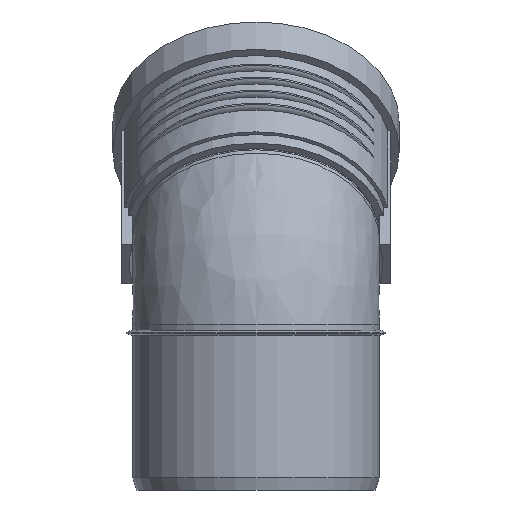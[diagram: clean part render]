
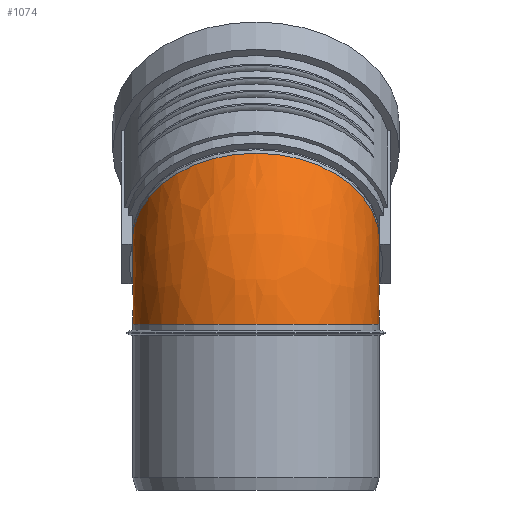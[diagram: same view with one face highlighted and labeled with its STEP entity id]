
A CAD part, left-side view. The second image highlights one B-rep face of the part: STEP entity #1074.
In plain terms, the highlighted free-form (B-spline) face has degree [2, 2] with [9, 9] control points.
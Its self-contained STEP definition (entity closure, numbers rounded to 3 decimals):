
#142=(
BOUNDED_SURFACE()
B_SPLINE_SURFACE(2,2,((#1588,#1589,#1590,#1591,#1592,#1593,#1594,#1595,
#1596),(#1597,#1598,#1599,#1600,#1601,#1602,#1603,#1604,#1605),(#1606,#1607,
#1608,#1609,#1610,#1611,#1612,#1613,#1614),(#1615,#1616,#1617,#1618,#1619,
#1620,#1621,#1622,#1623),(#1624,#1625,#1626,#1627,#1628,#1629,#1630,#1631,
#1632),(#1633,#1634,#1635,#1636,#1637,#1638,#1639,#1640,#1641),(#1642,#1643,
#1644,#1645,#1646,#1647,#1648,#1649,#1650),(#1651,#1652,#1653,#1654,#1655,
#1656,#1657,#1658,#1659),(#1660,#1661,#1662,#1663,#1664,#1665,#1666,#1667,
#1668)),.UNSPECIFIED.,.T.,.T.,.F.)
B_SPLINE_SURFACE_WITH_KNOTS((3,2,2,2,3),(3,2,2,2,3),(-3.142,
-1.571,0.,1.571,3.142),(-3.142,
-1.571,0.,1.571,3.142),.UNSPECIFIED.)
GEOMETRIC_REPRESENTATION_ITEM()
RATIONAL_B_SPLINE_SURFACE(((1.,0.707,1.,0.707,1.,
0.707,1.,0.707,1.),(0.707,0.5,0.707,
0.5,0.707,0.5,0.707,0.5,0.707),(1.,
0.707,1.,0.707,1.,0.707,1.,0.707,
1.),(0.707,0.5,0.707,0.5,0.707,0.5,
0.707,0.5,0.707),(1.,0.707,1.,0.707,
1.,0.707,1.,0.707,1.),(0.707,0.5,0.707,
0.5,0.707,0.5,0.707,0.5,0.707),(1.,
0.707,1.,0.707,1.,0.707,1.,0.707,
1.),(0.707,0.5,0.707,0.5,0.707,0.5,
0.707,0.5,0.707),(1.,0.707,1.,0.707,
1.,0.707,1.,0.707,1.)))
REPRESENTATION_ITEM($)
SURFACE()
);
#260=FACE_OUTER_BOUND($,#331,.T.);
#331=EDGE_LOOP($,(#734,#735));
#425=CIRCLE($,#1158,55.1);
#426=CIRCLE($,#1159,55.1);
#480=VERTEX_POINT($,#1586);
#586=EDGE_CURVE($,#480,#480,#425,.T.);
#587=EDGE_CURVE($,#480,#480,#426,.T.);
#734=ORIENTED_EDGE($,*,*,#586,.T.);
#735=ORIENTED_EDGE($,*,*,#587,.F.);
#1074=ADVANCED_FACE($,(#260),#142,.F.);
#1158=AXIS2_PLACEMENT_3D($,#1587,#1307,#1308);
#1159=AXIS2_PLACEMENT_3D($,#1669,#1309,#1310);
#1307=DIRECTION('center_axis',(-0.707,0.,-0.707));
#1308=DIRECTION('ref_axis',(-0.707,0.,0.707));
#1309=DIRECTION('center_axis',(0.,0.,-1.));
#1310=DIRECTION('ref_axis',(-1.,0.,0.));
#1586=CARTESIAN_POINT('',(55.1,0.,74.1));
#1587=CARTESIAN_POINT('Origin',(16.138,0.,113.062));
#1588=CARTESIAN_POINT('Ctrl Pts',(55.1,0.,74.1));
#1589=CARTESIAN_POINT('Ctrl Pts',(55.1,0.,74.1));
#1590=CARTESIAN_POINT('Ctrl Pts',(55.1,0.,74.1));
#1591=CARTESIAN_POINT('Ctrl Pts',(55.1,0.,74.1));
#1592=CARTESIAN_POINT('Ctrl Pts',(55.1,0.,74.1));
#1593=CARTESIAN_POINT('Ctrl Pts',(55.1,0.,74.1));
#1594=CARTESIAN_POINT('Ctrl Pts',(55.1,0.,74.1));
#1595=CARTESIAN_POINT('Ctrl Pts',(55.1,0.,74.1));
#1596=CARTESIAN_POINT('Ctrl Pts',(55.1,0.,74.1));
#1597=CARTESIAN_POINT('Ctrl Pts',(55.1,-55.1,74.1));
#1598=CARTESIAN_POINT('Ctrl Pts',(55.1,-55.1,74.1));
#1599=CARTESIAN_POINT('Ctrl Pts',(55.1,-55.1,74.1));
#1600=CARTESIAN_POINT('Ctrl Pts',(55.1,-55.1,74.1));
#1601=CARTESIAN_POINT('Ctrl Pts',(55.1,-55.1,74.1));
#1602=CARTESIAN_POINT('Ctrl Pts',(55.1,-55.1,74.1));
#1603=CARTESIAN_POINT('Ctrl Pts',(55.1,-55.1,74.1));
#1604=CARTESIAN_POINT('Ctrl Pts',(55.1,-55.1,74.1));
#1605=CARTESIAN_POINT('Ctrl Pts',(55.1,-55.1,74.1));
#1606=CARTESIAN_POINT('Ctrl Pts',(55.1,-55.1,19.));
#1607=CARTESIAN_POINT('Ctrl Pts',(0.,-55.1,19.));
#1608=CARTESIAN_POINT('Ctrl Pts',(0.,-55.1,74.1));
#1609=CARTESIAN_POINT('Ctrl Pts',(0.,-55.1,129.2));
#1610=CARTESIAN_POINT('Ctrl Pts',(55.1,-55.1,129.2));
#1611=CARTESIAN_POINT('Ctrl Pts',(110.2,-55.1,129.2));
#1612=CARTESIAN_POINT('Ctrl Pts',(110.2,-55.1,74.1));
#1613=CARTESIAN_POINT('Ctrl Pts',(110.2,-55.1,19.));
#1614=CARTESIAN_POINT('Ctrl Pts',(55.1,-55.1,19.));
#1615=CARTESIAN_POINT('Ctrl Pts',(55.1,-55.1,-36.1));
#1616=CARTESIAN_POINT('Ctrl Pts',(-55.1,-55.1,-36.1));
#1617=CARTESIAN_POINT('Ctrl Pts',(-55.1,-55.1,74.1));
#1618=CARTESIAN_POINT('Ctrl Pts',(-55.1,-55.1,184.3));
#1619=CARTESIAN_POINT('Ctrl Pts',(55.1,-55.1,184.3));
#1620=CARTESIAN_POINT('Ctrl Pts',(165.3,-55.1,184.3));
#1621=CARTESIAN_POINT('Ctrl Pts',(165.3,-55.1,74.1));
#1622=CARTESIAN_POINT('Ctrl Pts',(165.3,-55.1,-36.1));
#1623=CARTESIAN_POINT('Ctrl Pts',(55.1,-55.1,-36.1));
#1624=CARTESIAN_POINT('Ctrl Pts',(55.1,0.,-36.1));
#1625=CARTESIAN_POINT('Ctrl Pts',(-55.1,0.,-36.1));
#1626=CARTESIAN_POINT('Ctrl Pts',(-55.1,0.,74.1));
#1627=CARTESIAN_POINT('Ctrl Pts',(-55.1,0.,184.3));
#1628=CARTESIAN_POINT('Ctrl Pts',(55.1,0.,184.3));
#1629=CARTESIAN_POINT('Ctrl Pts',(165.3,0.,184.3));
#1630=CARTESIAN_POINT('Ctrl Pts',(165.3,0.,74.1));
#1631=CARTESIAN_POINT('Ctrl Pts',(165.3,0.,-36.1));
#1632=CARTESIAN_POINT('Ctrl Pts',(55.1,0.,-36.1));
#1633=CARTESIAN_POINT('Ctrl Pts',(55.1,55.1,-36.1));
#1634=CARTESIAN_POINT('Ctrl Pts',(-55.1,55.1,-36.1));
#1635=CARTESIAN_POINT('Ctrl Pts',(-55.1,55.1,74.1));
#1636=CARTESIAN_POINT('Ctrl Pts',(-55.1,55.1,184.3));
#1637=CARTESIAN_POINT('Ctrl Pts',(55.1,55.1,184.3));
#1638=CARTESIAN_POINT('Ctrl Pts',(165.3,55.1,184.3));
#1639=CARTESIAN_POINT('Ctrl Pts',(165.3,55.1,74.1));
#1640=CARTESIAN_POINT('Ctrl Pts',(165.3,55.1,-36.1));
#1641=CARTESIAN_POINT('Ctrl Pts',(55.1,55.1,-36.1));
#1642=CARTESIAN_POINT('Ctrl Pts',(55.1,55.1,19.));
#1643=CARTESIAN_POINT('Ctrl Pts',(0.,55.1,19.));
#1644=CARTESIAN_POINT('Ctrl Pts',(0.,55.1,74.1));
#1645=CARTESIAN_POINT('Ctrl Pts',(0.,55.1,129.2));
#1646=CARTESIAN_POINT('Ctrl Pts',(55.1,55.1,129.2));
#1647=CARTESIAN_POINT('Ctrl Pts',(110.2,55.1,129.2));
#1648=CARTESIAN_POINT('Ctrl Pts',(110.2,55.1,74.1));
#1649=CARTESIAN_POINT('Ctrl Pts',(110.2,55.1,19.));
#1650=CARTESIAN_POINT('Ctrl Pts',(55.1,55.1,19.));
#1651=CARTESIAN_POINT('Ctrl Pts',(55.1,55.1,74.1));
#1652=CARTESIAN_POINT('Ctrl Pts',(55.1,55.1,74.1));
#1653=CARTESIAN_POINT('Ctrl Pts',(55.1,55.1,74.1));
#1654=CARTESIAN_POINT('Ctrl Pts',(55.1,55.1,74.1));
#1655=CARTESIAN_POINT('Ctrl Pts',(55.1,55.1,74.1));
#1656=CARTESIAN_POINT('Ctrl Pts',(55.1,55.1,74.1));
#1657=CARTESIAN_POINT('Ctrl Pts',(55.1,55.1,74.1));
#1658=CARTESIAN_POINT('Ctrl Pts',(55.1,55.1,74.1));
#1659=CARTESIAN_POINT('Ctrl Pts',(55.1,55.1,74.1));
#1660=CARTESIAN_POINT('Ctrl Pts',(55.1,0.,74.1));
#1661=CARTESIAN_POINT('Ctrl Pts',(55.1,0.,74.1));
#1662=CARTESIAN_POINT('Ctrl Pts',(55.1,0.,74.1));
#1663=CARTESIAN_POINT('Ctrl Pts',(55.1,0.,74.1));
#1664=CARTESIAN_POINT('Ctrl Pts',(55.1,0.,74.1));
#1665=CARTESIAN_POINT('Ctrl Pts',(55.1,0.,74.1));
#1666=CARTESIAN_POINT('Ctrl Pts',(55.1,0.,74.1));
#1667=CARTESIAN_POINT('Ctrl Pts',(55.1,0.,74.1));
#1668=CARTESIAN_POINT('Ctrl Pts',(55.1,0.,74.1));
#1669=CARTESIAN_POINT('Origin',(0.,0.,74.1));
